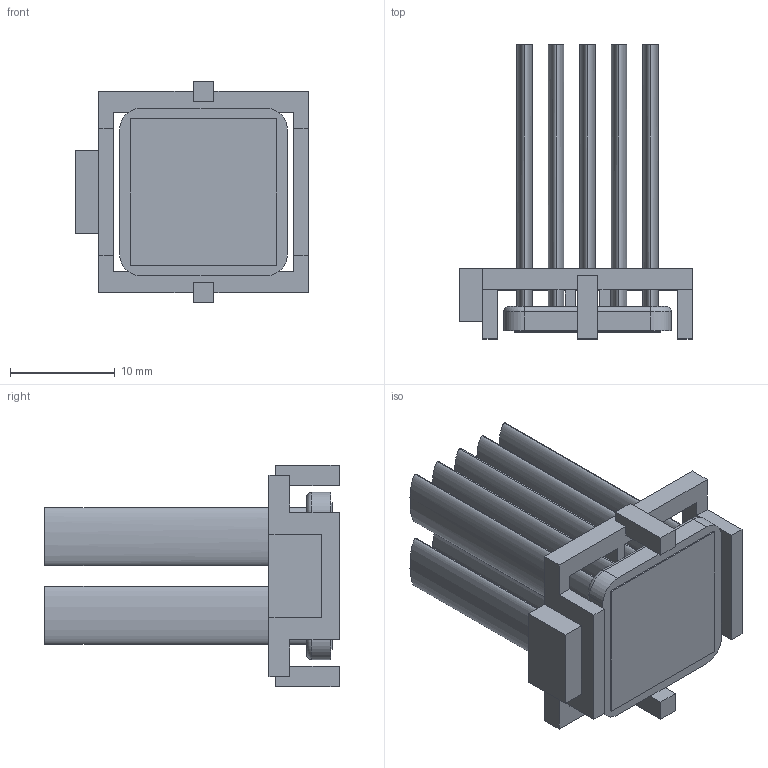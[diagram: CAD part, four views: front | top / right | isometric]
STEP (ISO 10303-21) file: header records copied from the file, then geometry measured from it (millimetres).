
FILE_DESCRIPTION (( 'STEP AP214' ), '1' );
FILE_NAME ('INM16001-27W-2.3BU.STEP', '2023-03-29T23:21:49', ( '' ), ( '' ), 'SwSTEP 2.0', 'SolidWorks 2020', '' );
FILE_SCHEMA (( 'AUTOMOTIVE_DESIGN' ));
Length unit declared in the file: millimetre
Products named in the file (1): INM16001-27W-2.3BU
Bounding box: 22.2 x 28.1 x 21.2 mm (x, y, z)
Volume: 2794.5 mm3; surface area: 5050.5 mm2
Topology: 3 solids, 3 shells, 99 faces, 244 edges, 160 vertices
Faces by surface type: plane 67, bspline 20, cylinder 8, torus 4
Entity records: 4079 total; most frequent: CARTESIAN_POINT 764, ORIENTED_EDGE 488, DIRECTION 384, EDGE_CURVE 244, VECTOR 184, LINE 184, VERTEX_POINT 160, EDGE_LOOP 110
